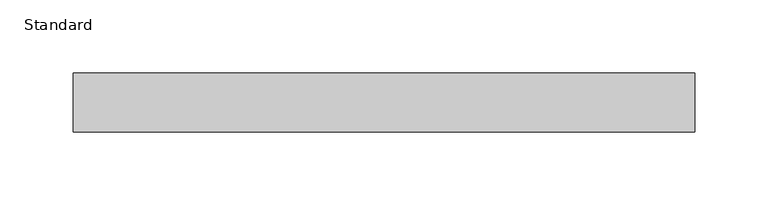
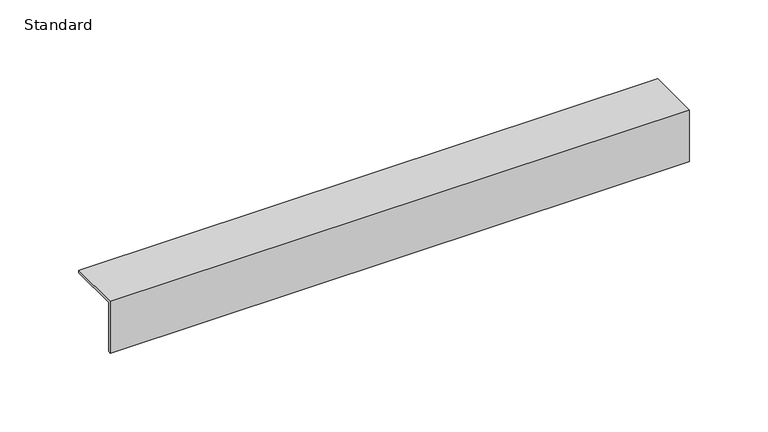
"""IFC4 building model written with IfcOpenShell, lengths in millimetres: furniture geometry, X_Vanity-Angle-Duracube-Bench Support : Standard."""

from ifc_helpers import new_model, si_unit, frame, origin, place, context, project, spatial, polyline, outline, extrude, source, transform, mapped, element, save


def standard_6a04d5a4(model_context):
    return source(origin(), model_context, "Body", "SweptSolid", [
        extrude(outline(polyline([(0.0, 0.0), (0.0, 40.0), (40.0, 40.0), (40.0, 38.0), (2.0, 38.0), (2.0, 0.0), (0.0, 0.0)])), frame((-167.0496736, 0.0, 0.0), z_axis=(1.0, 0.0, 0.0), x_axis=(0.0, 1.0, 0.0)), (0.0, 0.0, 1.0), 423.5),
    ])


if __name__ == "__main__":
    model = new_model("IFC4")
    model_context = context("Model", 3, world=origin())
    ifc_project = project(units=[si_unit("LENGTHUNIT", "METRE", prefix="MILLI")], contexts=[model_context])
    site = spatial("IfcSite", under=ifc_project)
    building = spatial("IfcBuilding", under=site)
    placement = place(None, origin())
    standard_shape = standard_6a04d5a4(model_context)
    element("IfcFurniture", 1, ObjectType="X_Vanity-Angle-Duracube-Bench Support : Standard", at=placement, inside=building, context=model_context, shape_type="MappedRepresentation", body=[
        mapped(standard_shape, transform((0.0, 0.0, 0.0), x_axis=(1.0, 0.0, 0.0), y_axis=(0.0, 1.0, 0.0), z_axis=(0.0, 0.0, 1.0))),
    ])
    save(model, "model.ifc")
